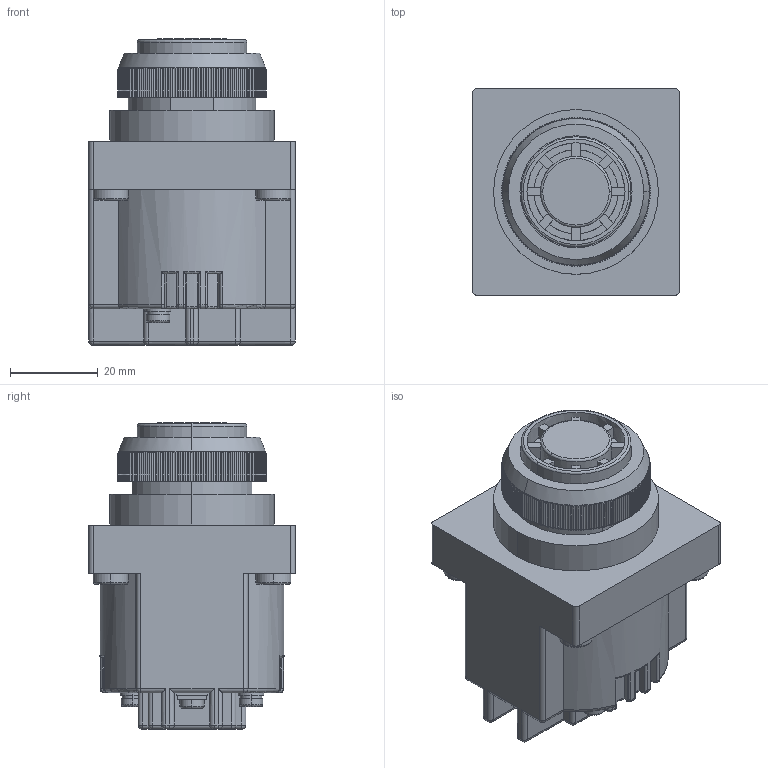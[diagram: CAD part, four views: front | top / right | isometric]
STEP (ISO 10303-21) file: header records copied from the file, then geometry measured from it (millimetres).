
FILE_DESCRIPTION (( 'STEP AP203' ), '1' );
FILE_NAME ('TB6-324.STEP', '2019-01-25T16:53:34', ( '' ), ( '' ), 'SwSTEP 2.0', 'SolidWorks 2012', '' );
FILE_SCHEMA (( 'CONFIG_CONTROL_DESIGN' ));
Length unit declared in the file: millimetre
Products named in the file (1): TB6-324
Bounding box: 47 x 47 x 69.8 mm (x, y, z)
Volume: 88911.7 mm3; surface area: 18015.6 mm2
Topology: 1 solids, 1 shells, 894 faces, 2491 edges, 1595 vertices
Faces by surface type: cylinder 584, plane 236, torus 40, sphere 20, bspline 12, cone 2
Entity records: 32005 total; most frequent: CARTESIAN_POINT 8975, ORIENTED_EDGE 4942, DIRECTION 4856, EDGE_CURVE 2471, AXIS2_PLACEMENT_3D 1846, VERTEX_POINT 1595, LINE 1164, VECTOR 1164
